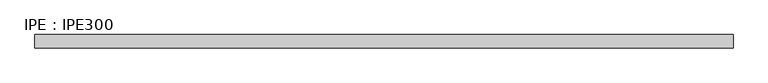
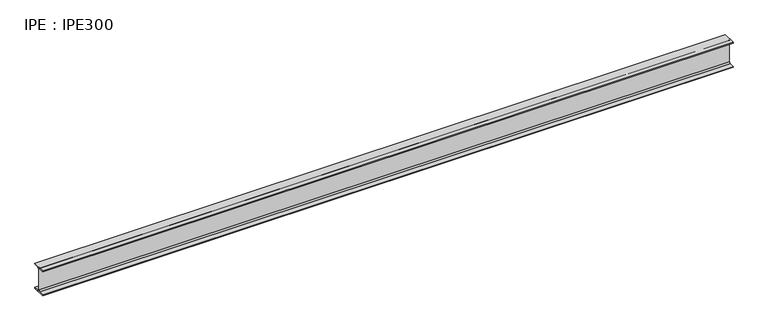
"""IFC4 building model written with IfcOpenShell, lengths in millimetres: beam geometry, IPE : IPE300."""

from ifc_helpers import new_model, si_unit, point, frame, frame_2d, origin, place, context, project, spatial, polyline, circle_curve, trimmed, segment, composite_curve, outline, extrude, source, transform, mapped, element, save


def ipe_ipe300_53a4a3a1(model_context):
    return source(origin(), model_context, "Body", "SweptSolid", [
        extrude(outline(composite_curve([segment(polyline([(75.0, -139.3), (75.0, -150.0), (-75.0, -150.0), (-75.0, -139.3), (-18.55, -139.3)]), True, "CONTINUOUS"), segment(trimmed(circle_curve(frame_2d((-18.55, -124.3)), 15.0), [point((-18.55, -139.3))], [point((-3.55, -124.3))], True, "CARTESIAN"), True, "CONTINUOUS"), segment(polyline([(-3.55, -124.3), (-3.55, 124.3)]), True, "CONTINUOUS"), segment(trimmed(circle_curve(frame_2d((-18.55, 124.3)), 15.0), [point((-3.55, 124.3))], [point((-18.55, 139.3))], True, "CARTESIAN"), True, "CONTINUOUS"), segment(polyline([(-18.55, 139.3), (-75.0, 139.3), (-75.0, 150.0), (75.0, 150.0), (75.0, 139.3), (18.55, 139.3)]), True, "CONTINUOUS"), segment(trimmed(circle_curve(frame_2d((18.55, 124.3)), 15.0), [point((18.55, 139.3))], [point((3.55, 124.3))], True, "CARTESIAN"), True, "CONTINUOUS"), segment(polyline([(3.55, 124.3), (3.55, -124.3)]), True, "CONTINUOUS"), segment(trimmed(circle_curve(frame_2d((18.55, -124.3)), 15.0), [point((3.55, -124.3))], [point((18.55, -139.3))], True, "CARTESIAN"), True, "CONTINUOUS"), segment(polyline([(18.55, -139.3), (75.0, -139.3)]), True, "CONTINUOUS")], self_intersect=False)), frame((-3995.0, 0.0, 0.0), z_axis=(1.0, 0.0, 0.0), x_axis=(0.0, 1.0, 0.0)), (0.0, 0.0, 1.0), 7857.3),
    ])


if __name__ == "__main__":
    model = new_model("IFC4")
    model_context = context("Model", 3, world=origin())
    ifc_project = project(units=[si_unit("LENGTHUNIT", "METRE", prefix="MILLI")], contexts=[model_context])
    site = spatial("IfcSite", under=ifc_project)
    building = spatial("IfcBuilding", under=site)
    placement = place(None, origin())
    ipe_ipe300_shape = ipe_ipe300_53a4a3a1(model_context)
    element("IfcBeam", 1, ObjectType="IPE : IPE300", at=placement, inside=building, context=model_context, shape_type="MappedRepresentation", body=[
        mapped(ipe_ipe300_shape, transform((0.0, 0.0, 0.0), x_axis=(1.0, 0.0, 0.0), y_axis=(0.0, 1.0, 0.0), z_axis=(0.0, 0.0, 1.0))),
    ])
    save(model, "model.ifc")
